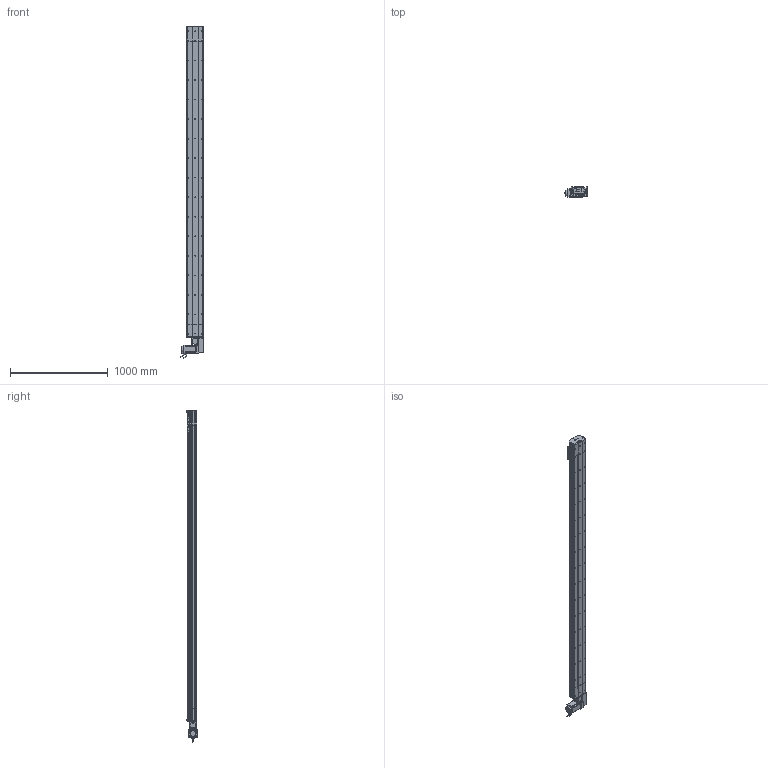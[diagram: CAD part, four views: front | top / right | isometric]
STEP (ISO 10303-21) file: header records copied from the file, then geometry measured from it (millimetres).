
FILE_DESCRIPTION (( 'STEP AP214' ), '1' );
FILE_NAME ('D17 TBH LH S2900.STEP', '2010-06-30T08:57:25', ( 'Christophe Gaillard' ), ( 'SGA' ), 'SwSTEP 2.0', 'SolidWorks 2010', '' );
FILE_SCHEMA (( 'AUTOMOTIVE_DESIGN' ));
Length unit declared in the file: millimetre
Products named in the file (40): Conecteur_Default; Couroie+ rail D17 Course 2900 ; Rail D17B; Conecteur2_Default; Couroie tail D17B_Default; poulie tail_Default; chariot D17S_Default; couvercle D17B_Default; corp tail D17B+100_Default; Chariot D17; Plaque racord D17_Default; plaque de  bout tail D17B_Default; vis M5 L25_Default; vis M5 L12_Default; D17 TBH LH S2900; course 2900 D17B_Default; vis M5 L16_Default; codeur 90BLDC125-640; Renvoi LH_Default; avant 90BLDC125A-640; Moteur motionking 90BLDC125A-640; Tail D17B+100_Default; poulie head_Default; couroie head D17_Default; cache arbre D17_Default; vis M5 L5_Default; cache D17_Default; Arbre+rail head D17B; corps 90BLDC125A-640; plaque de  bout head D17B LH_Default; couvercle D17B head_Default; corpl head D17 _Default; Head LH D17B_Default; tete d''axe poulie D17B; guide D17; corp D17B 2900_Default; couvercle D17B course L2900_Default; Vis M5 L16-2_Default; vis M5 L70_Default; vis M5 L8 90°_Default
Assembly tree (70 placements, depth 4):
  D17 TBH LH S2900
    Head LH D17B_Default
      vis M5 L25_Default  x2
      Moteur motionking 90BLDC125A-640
        avant 90BLDC125A-640
        Conecteur_Default
        Conecteur2_Default
        corps 90BLDC125A-640
        codeur 90BLDC125-640
      Arbre+rail head D17B
      corpl head D17 _Default
      vis M5 L5_Default  x4
      plaque de  bout head D17B LH_Default
      Vis M5 L16-2_Default  x4
      vis M5 L12_Default  x8
      vis M5 L70_Default  x4
      couvercle D17B head_Default
      cache D17_Default  x2
      Plaque racord D17_Default
      vis M5 L16_Default  x2
      couroie head D17_Default
      cache arbre D17_Default
      poulie head_Default
      Renvoi LH_Default
    course 2900 D17B_Default
      couvercle D17B course L2900_Default
      corp D17B 2900_Default
      Couroie+ rail D17 Course 2900 
    Tail D17B+100_Default
      vis M5 L8 90°_Default  x2
      poulie tail_Default
      vis M5 L25_Default  x2
      corp tail D17B+100_Default
      vis M5 L12_Default  x4
      Rail D17B
      tete d''axe poulie D17B
      plaque de  bout tail D17B_Default
      couvercle D17B_Default
      Couroie tail D17B_Default
    chariot D17S_Default
      guide D17  x2
      Chariot D17
      vis M5 L12_Default  x4
Bounding box: 245.2 x 105.65 x 3400.95 mm (x, y, z)
Volume: 18943500.7 mm3; surface area: 5514221.7 mm2
Topology: 94 solids, 94 shells, 2777 faces, 7103 edges, 4570 vertices
Faces by surface type: plane 1611, cylinder 853, bspline 136, cone 88, torus 85, sphere 4
Entity records: 87994 total; most frequent: CARTESIAN_POINT 25763, ORIENTED_EDGE 10978, DIRECTION 10390, EDGE_CURVE 5489, VERTEX_POINT 3594, VECTOR 3568, LINE 3568, AXIS2_PLACEMENT_3D 3411
